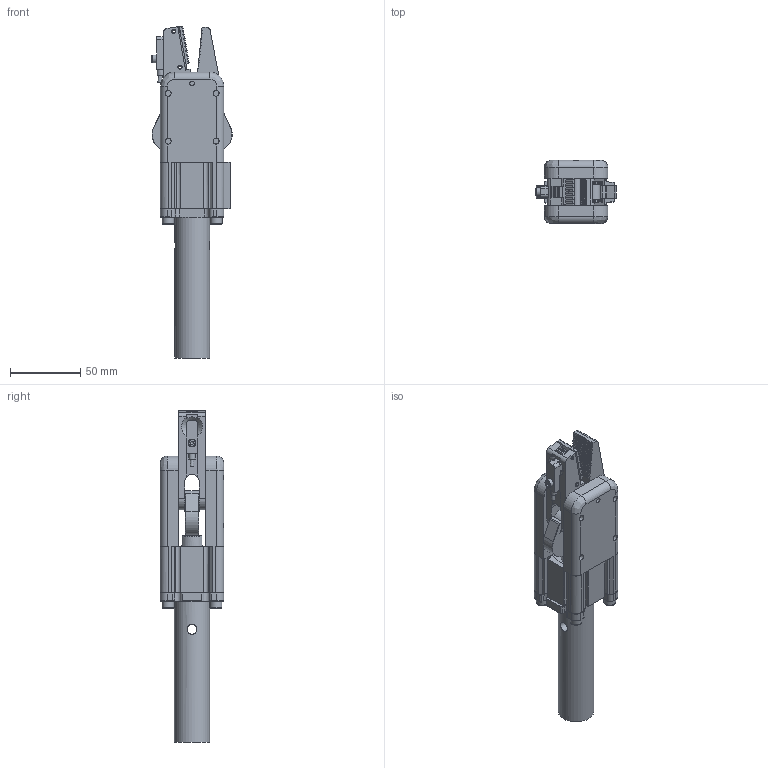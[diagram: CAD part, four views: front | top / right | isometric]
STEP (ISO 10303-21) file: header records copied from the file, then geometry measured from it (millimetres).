
FILE_DESCRIPTION(/* description */ (''),/* implementation_level */ '2;1');
FILE_NAME(/* name */ '8Y00462-GRP32A-CP--25.stp',/* time_stamp */ '2023-02-22T10:53:03+08:00',/* author */ (''),/* organization */ (''),/* preprocessor_version */ 'ST-DEVELOPER v16',/* originating_system */ 'SIEMENS PLM Software NX 10.0',/* authorisation */ '');
FILE_SCHEMA (('AUTOMOTIVE_DESIGN { 1 0 10303 214 3 1 1 1 }'));
Length unit declared in the file: millimetre
Products named in the file (1): _model28
Bounding box: 57.15 x 45 x 235.73 mm (x, y, z)
Volume: 187642.8 mm3; surface area: 84487.3 mm2
Topology: 16 solids, 22 shells, 1433 faces, 3077 edges, 1710 vertices
Faces by surface type: plane 1098, cylinder 204, cone 102, bspline 15, torus 13, sphere 1
Full cylindrical faces by diameter (mm): 2.4 x1, 2.5 x2, 3 x5, 3.1 x1, 3.3 x1, 3.4 x3, 4 x1, 4.1 x1, 4.2 x8, 4.5 x2, 5 x5, 5.2 x4, 5.5 x5, 6 x9, 6.647 x1, 6.8 x1, 7 x3, 8 x5, 8.1 x1, 8.5 x4, 8.566 x2, 8.6 x1, 9 x8, 10 x5, 13 x1, 14 x1, 15 x2, 16 x2, 17 x12, 21 x1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
Entity records: 51255 total; most frequent: CARTESIAN_POINT 11434, DIRECTION 6237, ORIENTED_EDGE 5662, EDGE_CURVE 2831, LINE 2133, VECTOR 2133, AXIS2_PLACEMENT_3D 2052, EDGE_LOOP 1711
